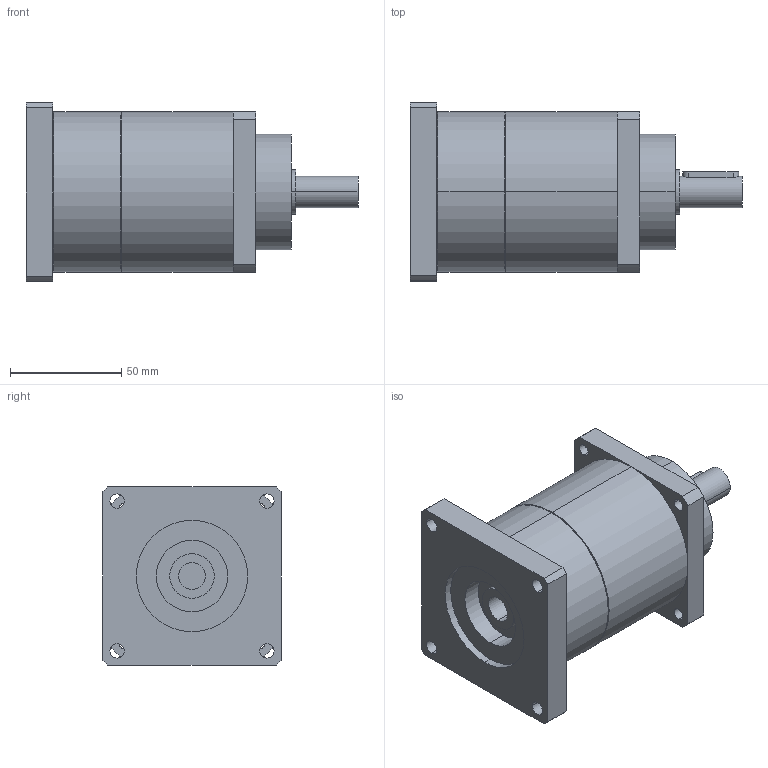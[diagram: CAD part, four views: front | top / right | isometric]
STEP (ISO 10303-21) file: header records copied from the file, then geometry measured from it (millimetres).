
FILE_DESCRIPTION(('CoCreate Modeling STEP Export'),'2;1');
FILE_NAME('GPT75_ig-9-12-16-20-25-28-35-40-50-70-100_14_B5T_12_P27.stp','2014-08-27T13:37:25',(''),(''),'CoCreate Modeling STEP processor for AP214 (Solid Model)','CoCreate Modeling 16.00C 25-Feb-2009 (C) Parametric Technology GmbH','');
FILE_SCHEMA(('AUTOMOTIVE_DESIGN { 1 0 10303 214 1 1 1 1 }'));
Length unit declared in the file: millimetre
Products named in the file (2): GPT75_ig-9-12-16-20-25-28-35-40-50-70-100_14_B5T_12_P27
Assembly tree (1 placements, depth 2):
  GPT75_ig-9-12-16-20-25-28-35-40-50-70-100_14_B5T_12_P27
    GPT75_ig-9-12-16-20-25-28-35-40-50-70-100_14_B5T_12_P27
Bounding box: 149 x 80 x 80 mm (x, y, z)
Volume: 478187.7 mm3; surface area: 48507.2 mm2
Topology: 1 solids, 1 shells, 77 faces, 191 edges, 126 vertices
Faces by surface type: cylinder 46, plane 27, cone 4
Entity records: 2469 total; most frequent: CARTESIAN_POINT 716, ORIENTED_EDGE 382, DIRECTION 320, EDGE_CURVE 191, VERTEX_POINT 126, AXIS2_PLACEMENT_3D 118, EDGE_LOOP 103, VECTOR 84
